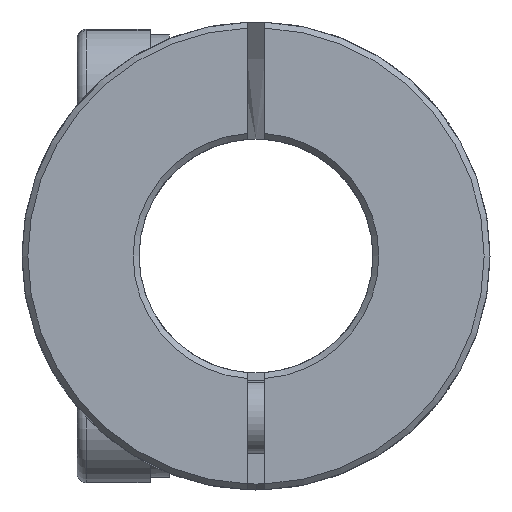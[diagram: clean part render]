
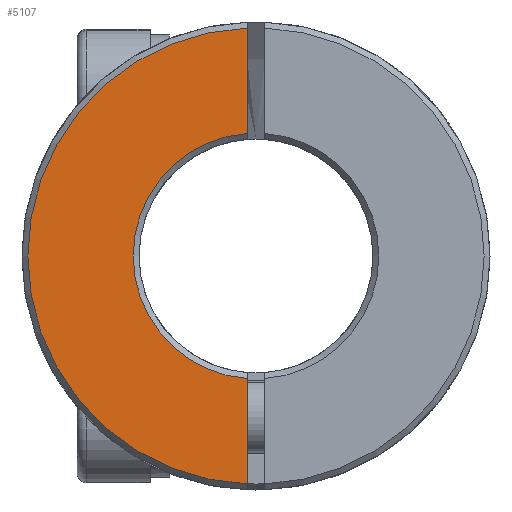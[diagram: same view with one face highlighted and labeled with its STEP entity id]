
A CAD part, front view. The second image highlights one B-rep face of the part: STEP entity #5107.
In plain terms, the highlighted planar face has unit normal (0, -1, 0).
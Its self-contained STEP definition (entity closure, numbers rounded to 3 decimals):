
#144 = EDGE_CURVE ( 'NONE', #4735, #1523, #1956, .T. ) ;
#263 = EDGE_CURVE ( 'NONE', #531, #4801, #6905, .T. ) ;
#420 = VECTOR ( 'NONE', #2290, 1000. ) ;
#437 = ORIENTED_EDGE ( 'NONE', *, *, #263, .F. ) ;
#531 = VERTEX_POINT ( 'NONE', #2073 ) ;
#666 = EDGE_CURVE ( 'NONE', #4735, #4801, #4821, .T. ) ;
#873 = ORIENTED_EDGE ( 'NONE', *, *, #144, .F. ) ;
#1046 = ORIENTED_EDGE ( 'NONE', *, *, #5861, .T. ) ;
#1384 = CARTESIAN_POINT ( 'NONE',  ( -0.3, -15.02, -7.794 ) ) ;
#1523 = VERTEX_POINT ( 'NONE', #1384 ) ;
#1790 = DIRECTION ( 'NONE',  ( 0., 0., -1. ) ) ;
#1817 = CARTESIAN_POINT ( 'NONE',  ( 0., -15.02, 0. ) ) ;
#1956 = LINE ( 'NONE', #5810, #420 ) ;
#1960 = AXIS2_PLACEMENT_3D ( 'NONE', #6909, #6350, #3399 ) ;
#2073 = CARTESIAN_POINT ( 'NONE',  ( -0.3, -15.02, 7.794 ) ) ;
#2290 = DIRECTION ( 'NONE',  ( 0., 0., -1. ) ) ;
#2446 = AXIS2_PLACEMENT_3D ( 'NONE', #1817, #7097, #4715 ) ;
#2476 = DIRECTION ( 'NONE',  ( 0., 1., 0. ) ) ;
#3064 = VECTOR ( 'NONE', #1790, 1000. ) ;
#3399 = DIRECTION ( 'NONE',  ( 0., 0., 1. ) ) ;
#3973 = CIRCLE ( 'NONE', #1960, 7.8 ) ;
#4028 = AXIS2_PLACEMENT_3D ( 'NONE', #6060, #2476, #4857 ) ;
#4297 = EDGE_LOOP ( 'NONE', ( #437, #1046, #873, #5211 ) ) ;
#4590 = FACE_OUTER_BOUND ( 'NONE', #4297, .T. ) ;
#4715 = DIRECTION ( 'NONE',  ( 0., 0., 1. ) ) ;
#4735 = VERTEX_POINT ( 'NONE', #4974 ) ;
#4801 = VERTEX_POINT ( 'NONE', #7430 ) ;
#4821 = CIRCLE ( 'NONE', #2446, 4.2 ) ;
#4857 = DIRECTION ( 'NONE',  ( 0., 0., 1. ) ) ;
#4974 = CARTESIAN_POINT ( 'NONE',  ( -0.3, -15.02, -4.189 ) ) ;
#5107 = ADVANCED_FACE ( 'NONE', ( #4590 ), #5423, .F. ) ;
#5211 = ORIENTED_EDGE ( 'NONE', *, *, #666, .T. ) ;
#5321 = CARTESIAN_POINT ( 'NONE',  ( -0.3, -15.02, 0. ) ) ;
#5423 = PLANE ( 'NONE',  #4028 ) ;
#5810 = CARTESIAN_POINT ( 'NONE',  ( -0.3, -15.02, 0. ) ) ;
#5861 = EDGE_CURVE ( 'NONE', #531, #1523, #3973, .T. ) ;
#6060 = CARTESIAN_POINT ( 'NONE',  ( 0., -15.02, 0. ) ) ;
#6350 = DIRECTION ( 'NONE',  ( 0., -1., 0. ) ) ;
#6905 = LINE ( 'NONE', #5321, #3064 ) ;
#6909 = CARTESIAN_POINT ( 'NONE',  ( 0., -15.02, 0. ) ) ;
#7097 = DIRECTION ( 'NONE',  ( 0., 1., 0. ) ) ;
#7430 = CARTESIAN_POINT ( 'NONE',  ( -0.3, -15.02, 4.189 ) ) ;
